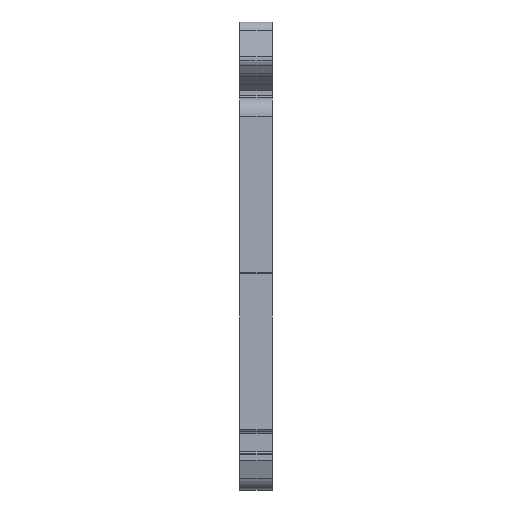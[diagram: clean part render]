
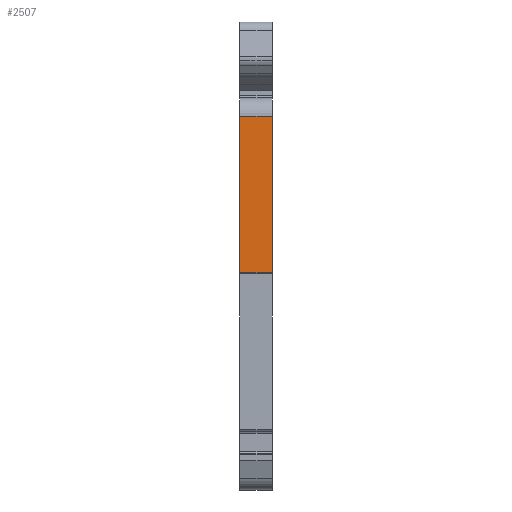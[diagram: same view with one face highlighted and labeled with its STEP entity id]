
A CAD part, left-side view. The second image highlights one B-rep face of the part: STEP entity #2507.
In plain terms, the highlighted planar face has unit normal (-1, 0, 0).
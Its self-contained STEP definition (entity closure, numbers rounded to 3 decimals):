
#348 = EDGE_CURVE ( 'NONE', #5922, #8448, #2110, .T. ) ;
#491 = DIRECTION ( 'NONE',  ( 0., 0., 1. ) ) ;
#1050 = DIRECTION ( 'NONE',  ( 1., 0., 0. ) ) ;
#1140 = VECTOR ( 'NONE', #6372, 1000. ) ;
#1188 = CARTESIAN_POINT ( 'NONE',  ( -103., 0., -3.5 ) ) ;
#1468 = EDGE_CURVE ( 'NONE', #5922, #3820, #7523, .T. ) ;
#1693 = EDGE_CURVE ( 'NONE', #5315, #3820, #5988, .T. ) ;
#2039 = VECTOR ( 'NONE', #491, 1000. ) ;
#2110 = LINE ( 'NONE', #3361, #1140 ) ;
#2300 = ORIENTED_EDGE ( 'NONE', *, *, #1468, .T. ) ;
#2478 = VECTOR ( 'NONE', #3687, 1000. ) ;
#2485 = FACE_OUTER_BOUND ( 'NONE', #4787, .T. ) ;
#2507 = ADVANCED_FACE ( 'NONE', ( #2485 ), #4620, .F. ) ;
#2548 = ORIENTED_EDGE ( 'NONE', *, *, #1693, .F. ) ;
#2580 = ORIENTED_EDGE ( 'NONE', *, *, #5547, .F. ) ;
#3361 = CARTESIAN_POINT ( 'NONE',  ( -103., 0., -3.2 ) ) ;
#3634 = LINE ( 'NONE', #5771, #6145 ) ;
#3687 = DIRECTION ( 'NONE',  ( 0., -1., 0. ) ) ;
#3820 = VERTEX_POINT ( 'NONE', #7996 ) ;
#3883 = DIRECTION ( 'NONE',  ( 0., 1., 0. ) ) ;
#4483 = CARTESIAN_POINT ( 'NONE',  ( -103., 9., 39.5 ) ) ;
#4620 = PLANE ( 'NONE',  #6891 ) ;
#4787 = EDGE_LOOP ( 'NONE', ( #5575, #2300, #2548, #2580 ) ) ;
#5315 = VERTEX_POINT ( 'NONE', #4483 ) ;
#5547 = EDGE_CURVE ( 'NONE', #8448, #5315, #3634, .T. ) ;
#5575 = ORIENTED_EDGE ( 'NONE', *, *, #348, .F. ) ;
#5771 = CARTESIAN_POINT ( 'NONE',  ( -103., 9., 0. ) ) ;
#5922 = VERTEX_POINT ( 'NONE', #9149 ) ;
#5988 = LINE ( 'NONE', #8066, #2478 ) ;
#6145 = VECTOR ( 'NONE', #8590, 1000. ) ;
#6372 = DIRECTION ( 'NONE',  ( 0., 1., 0. ) ) ;
#6891 = AXIS2_PLACEMENT_3D ( 'NONE', #7299, #1050, #3883 ) ;
#7104 = CARTESIAN_POINT ( 'NONE',  ( -103., 9., -3.2 ) ) ;
#7299 = CARTESIAN_POINT ( 'NONE',  ( -103., 0., -3.5 ) ) ;
#7523 = LINE ( 'NONE', #1188, #2039 ) ;
#7996 = CARTESIAN_POINT ( 'NONE',  ( -103., 0., 39.5 ) ) ;
#8066 = CARTESIAN_POINT ( 'NONE',  ( -103., 20.733, 39.5 ) ) ;
#8448 = VERTEX_POINT ( 'NONE', #7104 ) ;
#8590 = DIRECTION ( 'NONE',  ( 0., 0., 1. ) ) ;
#9149 = CARTESIAN_POINT ( 'NONE',  ( -103., 0., -3.2 ) ) ;
